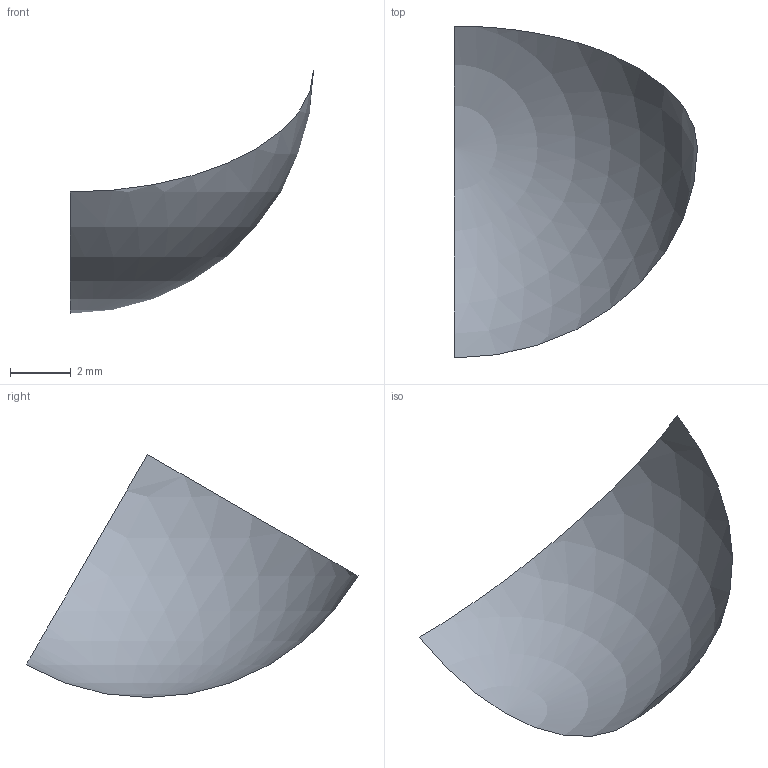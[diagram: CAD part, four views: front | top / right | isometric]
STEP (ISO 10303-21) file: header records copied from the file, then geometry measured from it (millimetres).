
FILE_DESCRIPTION(('BRL-CAD AP214 periodic face-branch regression'),'2;1');
FILE_NAME('ap214_periodic_face_branch.stp','2026-07-24T00:00:00',('BRL-CAD'),('BRL-CAD'),'','','');
FILE_SCHEMA(('AUTOMOTIVE_DESIGN { 1 0 10303 214 3 1 1 1 }'));
Length unit declared in the file: millimetre
Products named in the file (1): periodic_face_branch
Bounding box: 8 x 10.93 x 8 mm (x, y, z)
Surface area: 100.5 mm2 (no closed solid volume)
Topology: 0 solids, 1 shells, 1 faces, 5 edges, 4 vertices
Faces by surface type: sphere 1
Entity records: 48 total; most frequent: DIRECTION 8, CARTESIAN_POINT 7, AXIS2_PLACEMENT_3D 4, EDGE_CURVE 3, CIRCLE 3, ORIENTED_EDGE 3, VERTEX_POINT 3, ADVANCED_FACE 1
